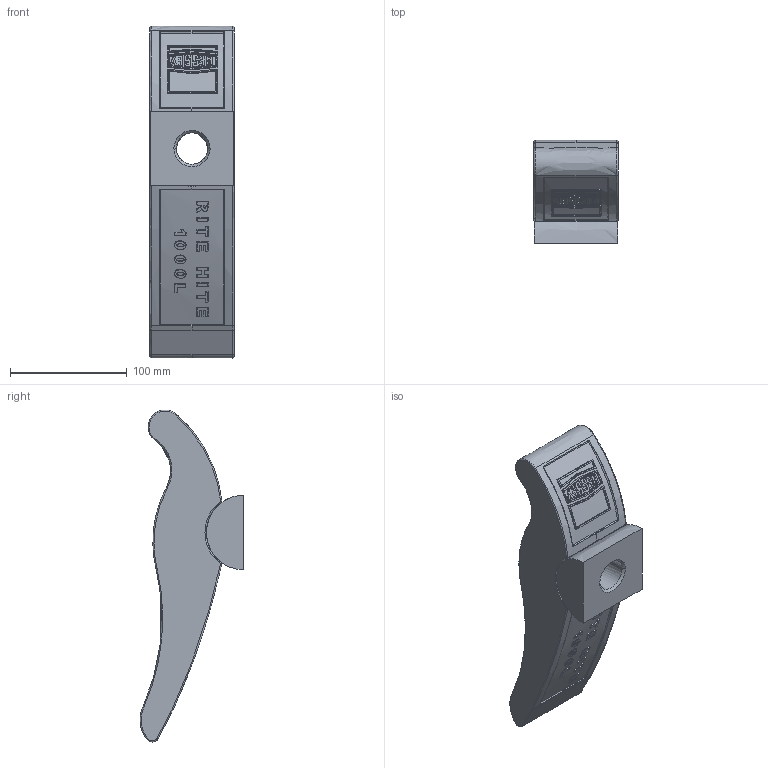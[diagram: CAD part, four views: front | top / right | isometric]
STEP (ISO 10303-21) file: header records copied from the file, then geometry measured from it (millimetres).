
FILE_DESCRIPTION( ( 'STEP AP214' ), '1' );
FILE_NAME( 'Z:/Klein/11_2012/Rite Hite_Drew/1000L.stp', ' ', ( ' ' ), ( ' ' ), 'PSStep 11.0', ' ', ' ' );
FILE_SCHEMA( ( 'AUTOMOTIVE_DESIGN { 1 0 10303 214 1 1 1 1 }' ) );
Length unit declared in the file: metre
Products named in the file (2): 1; 2
Bounding box: 72 x 88.97 x 284.5 mm (x, y, z)
Volume: 769399.6 mm3; surface area: 90961.4 mm2
Topology: 2 solids, 2 shells, 662 faces, 1830 edges, 1196 vertices
Faces by surface type: bspline 662
Entity records: 34998 total; most frequent: CARTESIAN_POINT 18843, ORIENTED_EDGE 3650, EDGE_CURVE 1825, B_SPLINE_CURVE_WITH_KNOTS 1569, VERTEX_POINT 1196, EDGE_LOOP 695, STYLED_ITEM 662, PRESENTATION_STYLE_ASSIGNMENT 662
